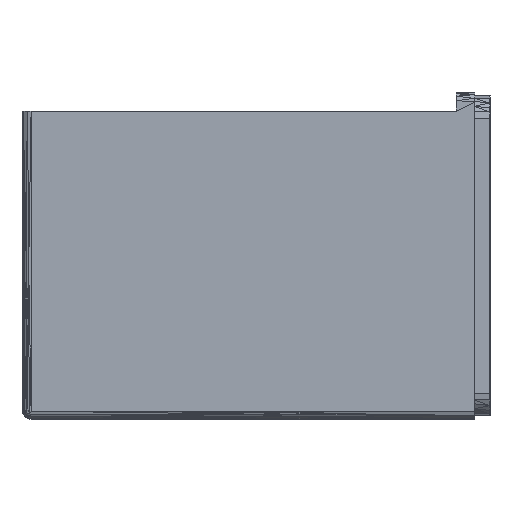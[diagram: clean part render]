
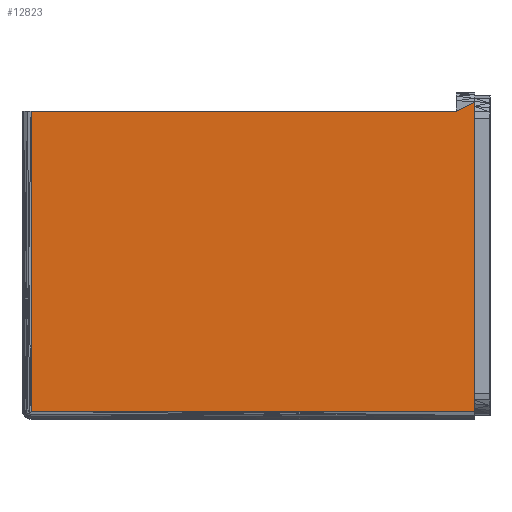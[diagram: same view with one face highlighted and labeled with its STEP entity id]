
A CAD part, left-side view. The second image highlights one B-rep face of the part: STEP entity #12823.
In plain terms, the highlighted planar face has unit normal (-1, 0, -0.001) as drawn and (-0.001, 0, 1) by its records, which use the part's own axes.
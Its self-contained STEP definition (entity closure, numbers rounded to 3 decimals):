
#311=FACE_OUTER_BOUND('',#1168,.T.);
#1168=EDGE_LOOP('',(#9486,#9487,#9488,#9489,#9490));
#2334=LINE('',#19012,#4108);
#2623=LINE('',#19608,#4397);
#2656=LINE('',#19672,#4430);
#2657=LINE('',#19674,#4431);
#2658=LINE('',#19675,#4432);
#4108=VECTOR('',#15125,10.);
#4397=VECTOR('',#15586,10.);
#4430=VECTOR('',#15623,10.);
#4431=VECTOR('',#15624,10.);
#4432=VECTOR('',#15625,10.);
#5560=VERTEX_POINT('',#18339);
#5818=VERTEX_POINT('',#19011);
#6008=VERTEX_POINT('',#19605);
#6009=VERTEX_POINT('',#19607);
#6039=VERTEX_POINT('',#19673);
#6921=EDGE_CURVE('',#5560,#5818,#2334,.T.);
#7221=EDGE_CURVE('',#6009,#6008,#2623,.T.);
#7254=EDGE_CURVE('',#5560,#6008,#2656,.T.);
#7255=EDGE_CURVE('',#5818,#6039,#2657,.T.);
#7256=EDGE_CURVE('',#6039,#6009,#2658,.T.);
#9486=ORIENTED_EDGE('',*,*,#7221,.T.);
#9487=ORIENTED_EDGE('',*,*,#7254,.F.);
#9488=ORIENTED_EDGE('',*,*,#6921,.T.);
#9489=ORIENTED_EDGE('',*,*,#7255,.T.);
#9490=ORIENTED_EDGE('',*,*,#7256,.T.);
#11995=PLANE('',#13697);
#12823=ADVANCED_FACE('',(#311),#11995,.T.);
#13697=AXIS2_PLACEMENT_3D('',#19671,#15621,#15622);
#15125=DIRECTION('',(0.,1.,0.));
#15586=DIRECTION('',(1.,0.,0.001));
#15621=DIRECTION('center_axis',(-0.001,0.,1.));
#15622=DIRECTION('ref_axis',(1.,0.,0.001));
#15623=DIRECTION('',(0.435,-0.9,0.));
#15624=DIRECTION('',(-1.,0.,-0.001));
#15625=DIRECTION('',(0.,-1.,0.));
#18339=CARTESIAN_POINT('',(23.5,-32.484,51.));
#19011=CARTESIAN_POINT('',(23.5,36.484,51.));
#19012=CARTESIAN_POINT('',(23.5,-32.484,51.));
#19605=CARTESIAN_POINT('',(24.95,-35.484,51.001));
#19607=CARTESIAN_POINT('',(-25.194,-35.484,50.974));
#19608=CARTESIAN_POINT('',(24.282,-35.484,51.));
#19671=CARTESIAN_POINT('Origin',(23.5,36.484,51.));
#19672=CARTESIAN_POINT('',(10.721,-6.037,50.993));
#19673=CARTESIAN_POINT('',(-25.194,36.484,50.974));
#19674=CARTESIAN_POINT('',(23.5,36.484,51.));
#19675=CARTESIAN_POINT('',(-25.194,36.484,50.974));
